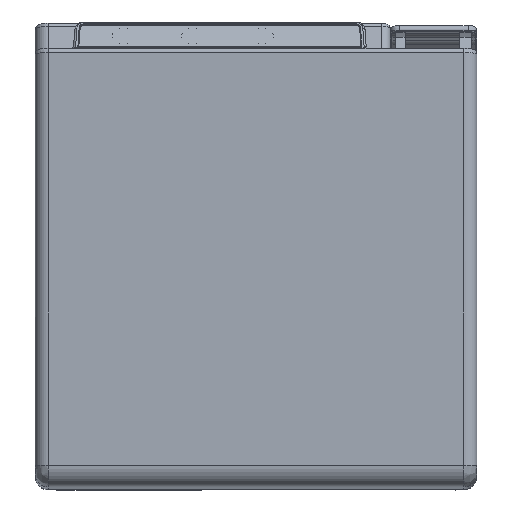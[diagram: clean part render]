
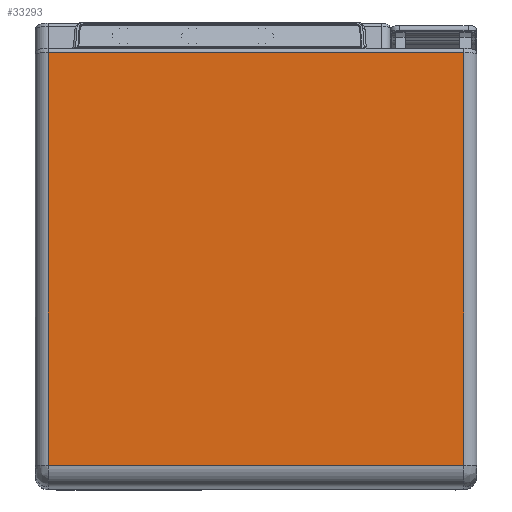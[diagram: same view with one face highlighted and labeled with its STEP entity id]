
A CAD part, top view. The second image highlights one B-rep face of the part: STEP entity #33293.
In plain terms, the highlighted planar face has unit normal (0, 0, 1).
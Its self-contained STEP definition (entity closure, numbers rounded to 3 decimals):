
#22722=CARTESIAN_POINT('',(27.,18.415,23.5));
#25282=DIRECTION('',(0.,-1.,0.));
#25283=VECTOR('',#25282,95.371);
#25284=CARTESIAN_POINT('',(27.,18.415,23.5));
#25285=LINE('',#25284,#25283);
#25286=DIRECTION('',(1.,0.,0.));
#25287=VECTOR('',#25286,96.);
#25288=CARTESIAN_POINT('',(-69.,-76.956,23.5));
#25289=LINE('',#25288,#25287);
#25290=DIRECTION('',(0.,1.,0.));
#25291=VECTOR('',#25290,95.371);
#25292=CARTESIAN_POINT('',(-69.,-76.956,23.5));
#25293=LINE('',#25292,#25291);
#25294=DIRECTION('',(-1.,0.,0.));
#25295=VECTOR('',#25294,96.);
#25296=CARTESIAN_POINT('',(27.,18.415,23.5));
#25297=LINE('',#25296,#25295);
#28820=CARTESIAN_POINT('',(27.,-76.956,23.5));
#28822=VERTEX_POINT('',#28820);
#28824=CARTESIAN_POINT('',(-69.,-76.956,23.5));
#28826=VERTEX_POINT('',#28824);
#28842=VERTEX_POINT('',#22722);
#28843=CARTESIAN_POINT('',(-69.,18.415,23.5));
#28844=VERTEX_POINT('',#28843);
#33280=CARTESIAN_POINT('',(-72.,19.5,23.5));
#33281=DIRECTION('',(0.,0.,1.));
#33282=DIRECTION('',(0.,-1.,0.));
#33283=AXIS2_PLACEMENT_3D('',#33280,#33281,#33282);
#33284=PLANE('',#33283);
#33285=ORIENTED_EDGE('',*,*,#30166,.T.);
#33287=ORIENTED_EDGE('',*,*,#33286,.F.);
#33289=ORIENTED_EDGE('',*,*,#33288,.T.);
#33290=ORIENTED_EDGE('',*,*,#33267,.F.);
#33291=EDGE_LOOP('',(#33285,#33287,#33289,#33290));
#33292=FACE_OUTER_BOUND('',#33291,.F.);
#30166=EDGE_CURVE('',#28842,#28822,#25285,.T.);
#33267=EDGE_CURVE('',#28842,#28844,#25297,.T.);
#33286=EDGE_CURVE('',#28826,#28822,#25289,.T.);
#33288=EDGE_CURVE('',#28826,#28844,#25293,.T.);
#33293=ADVANCED_FACE('',(#33292),#33284,.T.);
